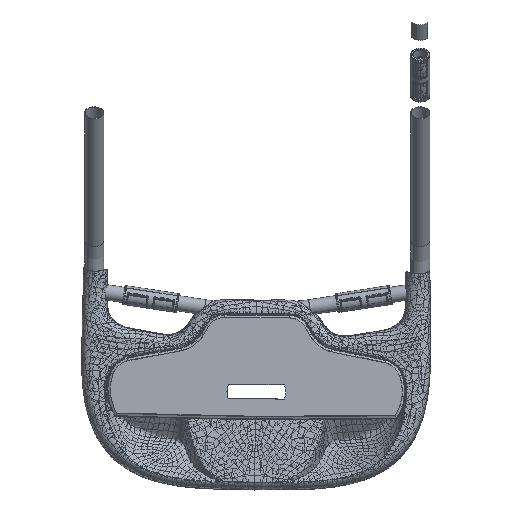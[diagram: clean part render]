
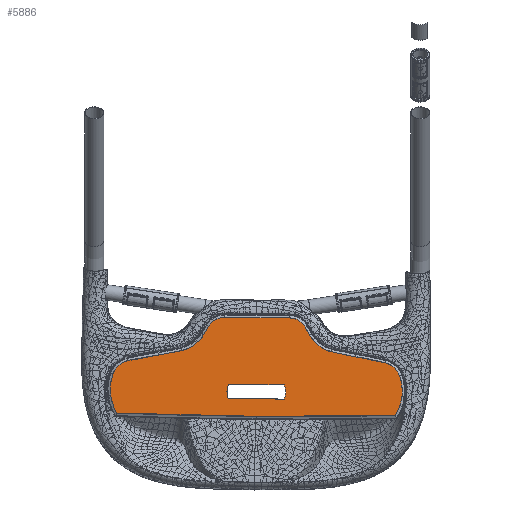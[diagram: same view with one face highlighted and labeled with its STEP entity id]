
A CAD part, top view. The second image highlights one B-rep face of the part: STEP entity #5886.
In plain terms, the highlighted planar face has unit normal (-0.011, 0.048, 0.999) as drawn and (0, 0, 1) by its records, which use the part's own axes.
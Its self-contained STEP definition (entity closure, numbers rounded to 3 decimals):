
#5708=AXIS2_PLACEMENT_3D('Circle Axis2P3D',#5706,#5707,$) ;
#5728=AXIS2_PLACEMENT_3D('Plane Axis2P3D',#5725,#5726,#5727) ;
#5732=AXIS2_PLACEMENT_3D('Circle Axis2P3D',#5730,#5731,$) ;
#5741=AXIS2_PLACEMENT_3D('Circle Axis2P3D',#5739,#5740,$) ;
#5748=AXIS2_PLACEMENT_3D('Circle Axis2P3D',#5746,#5747,$) ;
#5755=AXIS2_PLACEMENT_3D('Circle Axis2P3D',#5753,#5754,$) ;
#5762=AXIS2_PLACEMENT_3D('Circle Axis2P3D',#5760,#5761,$) ;
#5769=AXIS2_PLACEMENT_3D('Circle Axis2P3D',#5767,#5768,$) ;
#5783=AXIS2_PLACEMENT_3D('Circle Axis2P3D',#5781,#5782,$) ;
#5797=AXIS2_PLACEMENT_3D('Circle Axis2P3D',#5795,#5796,$) ;
#5811=AXIS2_PLACEMENT_3D('Circle Axis2P3D',#5809,#5810,$) ;
#5818=AXIS2_PLACEMENT_3D('Circle Axis2P3D',#5816,#5817,$) ;
#5825=AXIS2_PLACEMENT_3D('Circle Axis2P3D',#5823,#5824,$) ;
#5832=AXIS2_PLACEMENT_3D('Circle Axis2P3D',#5830,#5831,$) ;
#5839=AXIS2_PLACEMENT_3D('Circle Axis2P3D',#5837,#5838,$) ;
#5846=AXIS2_PLACEMENT_3D('Circle Axis2P3D',#5844,#5845,$) ;
#5870=AXIS2_PLACEMENT_3D('Circle Axis2P3D',#5868,#5869,$) ;
#5672=CARTESIAN_POINT('Vertex',(-58.5,-177.,9.)) ;
#5675=CARTESIAN_POINT('Line Origine',(0.,-177.,9.)) ;
#5679=CARTESIAN_POINT('Vertex',(58.5,-177.,9.)) ;
#5706=CARTESIAN_POINT('Axis2P3D Location',(23.586,-162.,9.)) ;
#5710=CARTESIAN_POINT('Vertex',(58.5,-147.,9.)) ;
#5725=CARTESIAN_POINT('Axis2P3D Location',(0.,0.,9.)) ;
#5730=CARTESIAN_POINT('Axis2P3D Location',(0.,9780.,9.)) ;
#5734=CARTESIAN_POINT('Vertex',(0.,-214.,9.)) ;
#5736=CARTESIAN_POINT('Vertex',(292.565,-209.717,9.)) ;
#5739=CARTESIAN_POINT('Axis2P3D Location',(211.,-159.09,9.)) ;
#5743=CARTESIAN_POINT('Vertex',(301.462,-126.954,9.)) ;
#5746=CARTESIAN_POINT('Axis2P3D Location',(260.,-141.683,9.)) ;
#5750=CARTESIAN_POINT('Vertex',(270.294,-98.904,9.)) ;
#5753=CARTESIAN_POINT('Axis2P3D Location',(84.54,-870.87,9.)) ;
#5757=CARTESIAN_POINT('Vertex',(206.737,-86.329,9.)) ;
#5760=CARTESIAN_POINT('Axis2P3D Location',(300.,512.451,9.)) ;
#5764=CARTESIAN_POINT('Vertex',(156.443,-76.3,9.)) ;
#5767=CARTESIAN_POINT('Axis2P3D Location',(173.263,-7.321,9.)) ;
#5771=CARTESIAN_POINT('Vertex',(111.775,-42.821,9.)) ;
#5774=CARTESIAN_POINT('Line Origine',(106.775,-34.16,9.)) ;
#5778=CARTESIAN_POINT('Vertex',(101.775,-25.5,9.)) ;
#5781=CARTESIAN_POINT('Axis2P3D Location',(68.,-45.,9.)) ;
#5785=CARTESIAN_POINT('Vertex',(68.,-6.,9.)) ;
#5788=CARTESIAN_POINT('Line Origine',(0.,-6.,9.)) ;
#5792=CARTESIAN_POINT('Vertex',(-68.,-6.,9.)) ;
#5795=CARTESIAN_POINT('Axis2P3D Location',(-68.,-45.,9.)) ;
#5799=CARTESIAN_POINT('Vertex',(-101.775,-25.5,9.)) ;
#5802=CARTESIAN_POINT('Line Origine',(-106.775,-34.16,9.)) ;
#5806=CARTESIAN_POINT('Vertex',(-111.775,-42.821,9.)) ;
#5809=CARTESIAN_POINT('Axis2P3D Location',(-173.263,-7.321,9.)) ;
#5813=CARTESIAN_POINT('Vertex',(-156.443,-76.3,9.)) ;
#5816=CARTESIAN_POINT('Axis2P3D Location',(-300.,512.451,9.)) ;
#5820=CARTESIAN_POINT('Vertex',(-206.737,-86.329,9.)) ;
#5823=CARTESIAN_POINT('Axis2P3D Location',(-84.54,-870.87,9.)) ;
#5827=CARTESIAN_POINT('Vertex',(-270.294,-98.904,9.)) ;
#5830=CARTESIAN_POINT('Axis2P3D Location',(-260.,-141.683,9.)) ;
#5834=CARTESIAN_POINT('Vertex',(-301.462,-126.954,9.)) ;
#5837=CARTESIAN_POINT('Axis2P3D Location',(-211.,-159.09,9.)) ;
#5841=CARTESIAN_POINT('Vertex',(-292.565,-209.717,9.)) ;
#5844=CARTESIAN_POINT('Axis2P3D Location',(0.,9780.,9.)) ;
#5868=CARTESIAN_POINT('Axis2P3D Location',(-23.586,-162.,9.)) ;
#5872=CARTESIAN_POINT('Vertex',(-58.5,-147.,9.)) ;
#5875=CARTESIAN_POINT('Line Origine',(0.,-147.,9.)) ;
#5676=DIRECTION('Vector Direction',(-1.,0.,0.)) ;
#5707=DIRECTION('Axis2P3D Direction',(0.,0.,1.)) ;
#5726=DIRECTION('Axis2P3D Direction',(0.,0.,1.)) ;
#5727=DIRECTION('Axis2P3D XDirection',(1.,0.,0.)) ;
#5731=DIRECTION('Axis2P3D Direction',(0.,0.,1.)) ;
#5740=DIRECTION('Axis2P3D Direction',(0.,0.,1.)) ;
#5747=DIRECTION('Axis2P3D Direction',(0.,0.,1.)) ;
#5754=DIRECTION('Axis2P3D Direction',(0.,0.,1.)) ;
#5761=DIRECTION('Axis2P3D Direction',(0.,0.,1.)) ;
#5768=DIRECTION('Axis2P3D Direction',(0.,0.,1.)) ;
#5775=DIRECTION('Vector Direction',(0.5,-0.866,0.)) ;
#5782=DIRECTION('Axis2P3D Direction',(0.,0.,1.)) ;
#5789=DIRECTION('Vector Direction',(1.,0.,0.)) ;
#5796=DIRECTION('Axis2P3D Direction',(0.,0.,1.)) ;
#5803=DIRECTION('Vector Direction',(-0.5,-0.866,0.)) ;
#5810=DIRECTION('Axis2P3D Direction',(0.,0.,1.)) ;
#5817=DIRECTION('Axis2P3D Direction',(0.,0.,1.)) ;
#5824=DIRECTION('Axis2P3D Direction',(0.,0.,1.)) ;
#5831=DIRECTION('Axis2P3D Direction',(0.,0.,1.)) ;
#5838=DIRECTION('Axis2P3D Direction',(0.,0.,1.)) ;
#5845=DIRECTION('Axis2P3D Direction',(0.,0.,1.)) ;
#5869=DIRECTION('Axis2P3D Direction',(0.,0.,1.)) ;
#5876=DIRECTION('Vector Direction',(1.,0.,0.)) ;
#5677=VECTOR('Line Direction',#5676,1.) ;
#5776=VECTOR('Line Direction',#5775,1.) ;
#5790=VECTOR('Line Direction',#5789,1.) ;
#5804=VECTOR('Line Direction',#5803,1.) ;
#5877=VECTOR('Line Direction',#5876,1.) ;
#5850=ORIENTED_EDGE('',*,*,#5738,.T.) ;
#5851=ORIENTED_EDGE('',*,*,#5745,.T.) ;
#5852=ORIENTED_EDGE('',*,*,#5752,.T.) ;
#5853=ORIENTED_EDGE('',*,*,#5759,.T.) ;
#5854=ORIENTED_EDGE('',*,*,#5766,.T.) ;
#5855=ORIENTED_EDGE('',*,*,#5773,.T.) ;
#5856=ORIENTED_EDGE('',*,*,#5780,.T.) ;
#5857=ORIENTED_EDGE('',*,*,#5787,.T.) ;
#5858=ORIENTED_EDGE('',*,*,#5794,.F.) ;
#5859=ORIENTED_EDGE('',*,*,#5801,.F.) ;
#5860=ORIENTED_EDGE('',*,*,#5808,.F.) ;
#5861=ORIENTED_EDGE('',*,*,#5815,.F.) ;
#5862=ORIENTED_EDGE('',*,*,#5822,.F.) ;
#5863=ORIENTED_EDGE('',*,*,#5829,.F.) ;
#5864=ORIENTED_EDGE('',*,*,#5836,.F.) ;
#5865=ORIENTED_EDGE('',*,*,#5843,.F.) ;
#5866=ORIENTED_EDGE('',*,*,#5848,.F.) ;
#5881=ORIENTED_EDGE('',*,*,#5874,.F.) ;
#5882=ORIENTED_EDGE('',*,*,#5879,.F.) ;
#5883=ORIENTED_EDGE('',*,*,#5712,.F.) ;
#5884=ORIENTED_EDGE('',*,*,#5681,.F.) ;
#5885=FACE_BOUND('',#5880,.T.) ;
#5886=ADVANCED_FACE('Corps principal',(#5867,#5885),#5729,.T.) ;
#5709=CIRCLE('generated circle',#5708,38.) ;
#5733=CIRCLE('generated circle',#5732,9994.) ;
#5742=CIRCLE('generated circle',#5741,96.) ;
#5749=CIRCLE('generated circle',#5748,44.) ;
#5756=CIRCLE('generated circle',#5755,794.) ;
#5763=CIRCLE('generated circle',#5762,606.) ;
#5770=CIRCLE('generated circle',#5769,71.) ;
#5784=CIRCLE('generated circle',#5783,39.) ;
#5798=CIRCLE('generated circle',#5797,39.) ;
#5812=CIRCLE('generated circle',#5811,71.) ;
#5819=CIRCLE('generated circle',#5818,606.) ;
#5826=CIRCLE('generated circle',#5825,794.) ;
#5833=CIRCLE('generated circle',#5832,44.) ;
#5840=CIRCLE('generated circle',#5839,96.) ;
#5847=CIRCLE('generated circle',#5846,9994.) ;
#5871=CIRCLE('generated circle',#5870,38.) ;
#5681=EDGE_CURVE('',#5673,#5680,#5678,.F.) ;
#5712=EDGE_CURVE('',#5680,#5711,#5709,.T.) ;
#5738=EDGE_CURVE('',#5735,#5737,#5733,.T.) ;
#5745=EDGE_CURVE('',#5737,#5744,#5742,.T.) ;
#5752=EDGE_CURVE('',#5744,#5751,#5749,.T.) ;
#5759=EDGE_CURVE('',#5751,#5758,#5756,.T.) ;
#5766=EDGE_CURVE('',#5758,#5765,#5763,.F.) ;
#5773=EDGE_CURVE('',#5765,#5772,#5770,.F.) ;
#5780=EDGE_CURVE('',#5772,#5779,#5777,.F.) ;
#5787=EDGE_CURVE('',#5779,#5786,#5784,.T.) ;
#5794=EDGE_CURVE('',#5793,#5786,#5791,.T.) ;
#5801=EDGE_CURVE('',#5800,#5793,#5798,.F.) ;
#5808=EDGE_CURVE('',#5807,#5800,#5805,.F.) ;
#5815=EDGE_CURVE('',#5814,#5807,#5812,.T.) ;
#5822=EDGE_CURVE('',#5821,#5814,#5819,.T.) ;
#5829=EDGE_CURVE('',#5828,#5821,#5826,.F.) ;
#5836=EDGE_CURVE('',#5835,#5828,#5833,.F.) ;
#5843=EDGE_CURVE('',#5842,#5835,#5840,.F.) ;
#5848=EDGE_CURVE('',#5735,#5842,#5847,.F.) ;
#5874=EDGE_CURVE('',#5873,#5673,#5871,.T.) ;
#5879=EDGE_CURVE('',#5711,#5873,#5878,.F.) ;
#5849=EDGE_LOOP('',(#5850,#5851,#5852,#5853,#5854,#5855,#5856,#5857,#5858,#5859,#5860,#5861,#5862,#5863,#5864,#5865,#5866)) ;
#5880=EDGE_LOOP('',(#5881,#5882,#5883,#5884)) ;
#5867=FACE_OUTER_BOUND('',#5849,.T.) ;
#5678=LINE('Line',#5675,#5677) ;
#5777=LINE('Line',#5774,#5776) ;
#5791=LINE('Line',#5788,#5790) ;
#5805=LINE('Line',#5802,#5804) ;
#5878=LINE('Line',#5875,#5877) ;
#5729=PLANE('Plane',#5728) ;
#5673=VERTEX_POINT('',#5672) ;
#5680=VERTEX_POINT('',#5679) ;
#5711=VERTEX_POINT('',#5710) ;
#5735=VERTEX_POINT('',#5734) ;
#5737=VERTEX_POINT('',#5736) ;
#5744=VERTEX_POINT('',#5743) ;
#5751=VERTEX_POINT('',#5750) ;
#5758=VERTEX_POINT('',#5757) ;
#5765=VERTEX_POINT('',#5764) ;
#5772=VERTEX_POINT('',#5771) ;
#5779=VERTEX_POINT('',#5778) ;
#5786=VERTEX_POINT('',#5785) ;
#5793=VERTEX_POINT('',#5792) ;
#5800=VERTEX_POINT('',#5799) ;
#5807=VERTEX_POINT('',#5806) ;
#5814=VERTEX_POINT('',#5813) ;
#5821=VERTEX_POINT('',#5820) ;
#5828=VERTEX_POINT('',#5827) ;
#5835=VERTEX_POINT('',#5834) ;
#5842=VERTEX_POINT('',#5841) ;
#5873=VERTEX_POINT('',#5872) ;
